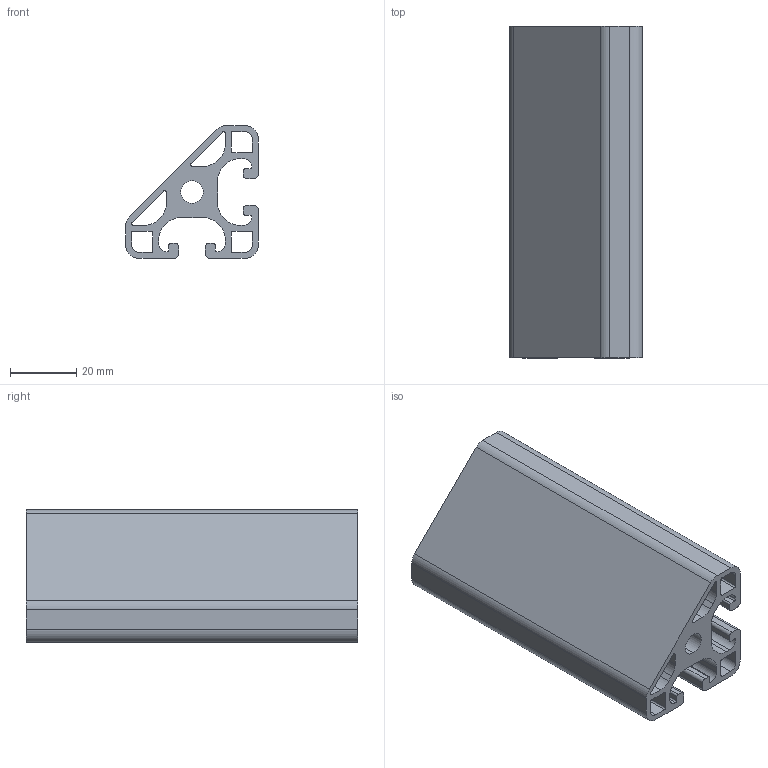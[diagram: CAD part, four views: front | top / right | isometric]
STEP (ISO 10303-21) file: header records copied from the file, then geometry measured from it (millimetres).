
FILE_DESCRIPTION (( 'STEP AP203' ), '1' );
FILE_NAME ('0108P4040-45L.STEP', '2024-02-29T08:47:59', ( 'Windows-Benutzer' ), ( '' ), 'SwSTEP 2.0', 'SolidWorks 2023', '' );
FILE_SCHEMA (( 'CONFIG_CONTROL_DESIGN' ));
Length unit declared in the file: millimetre
Products named in the file (1): 0108P4040-45L
Bounding box: 40 x 100 x 40 mm (x, y, z)
Volume: 55224.9 mm3; surface area: 40269 mm2
Topology: 1 solids, 1 shells, 106 faces, 312 edges, 208 vertices
Faces by surface type: cylinder 55, plane 51
Entity records: 3667 total; most frequent: DIRECTION 636, CARTESIAN_POINT 627, ORIENTED_EDGE 624, EDGE_CURVE 312, AXIS2_PLACEMENT_3D 217, VERTEX_POINT 208, VECTOR 202, LINE 202
